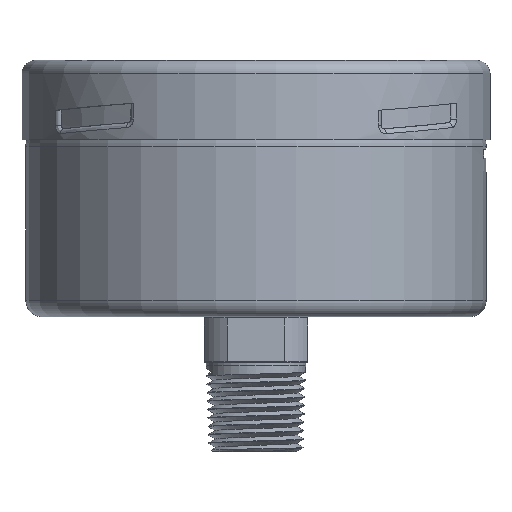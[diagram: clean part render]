
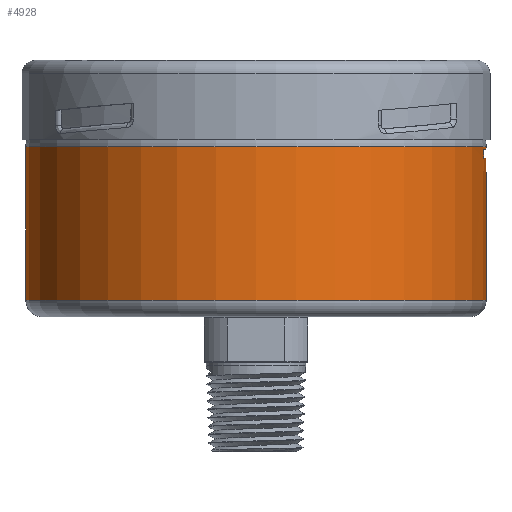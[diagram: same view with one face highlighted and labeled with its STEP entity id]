
A CAD part, left-side view. The second image highlights one B-rep face of the part: STEP entity #4928.
In plain terms, the highlighted cylindrical face has radius 49.4 mm (diameter 98.8 mm), a full revolution.
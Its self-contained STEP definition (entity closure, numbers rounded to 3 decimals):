
#75=FACE_BOUND('',#1843,.T.);
#76=FACE_BOUND('',#1844,.T.);
#158=LINE('',#7720,#653);
#159=LINE('',#7725,#654);
#160=LINE('',#7728,#655);
#653=VECTOR('',#5712,49.4);
#654=VECTOR('',#5715,1000.);
#655=VECTOR('',#5718,1000.);
#1147=CIRCLE('',#5294,49.4);
#1152=CIRCLE('',#5300,49.4);
#1153=CIRCLE('',#5302,49.4);
#1154=CIRCLE('',#5303,49.4);
#1211=CYLINDRICAL_SURFACE('',#5301,49.4);
#1552=FACE_OUTER_BOUND('',#1842,.T.);
#1842=EDGE_LOOP('',(#3431,#3432,#3433,#3434));
#1843=EDGE_LOOP('',(#3435,#3436));
#1844=EDGE_LOOP('',(#3437,#3438,#3439,#3440));
#2157=B_SPLINE_CURVE_WITH_KNOTS('',3,(#6845,#6846,#6847,#6848,#6849,#6850,
#6851,#6852,#6853,#6854,#6855,#6856,#6857,#6858,#6859,#6860,#6861,#6862,
#6863),.UNSPECIFIED.,.F.,.F.,(4,2,2,2,3,2,2,2,4),(0.057,0.062,
0.067,0.072,0.077,0.081,
0.086,0.091,0.096),.UNSPECIFIED.);
#2158=B_SPLINE_CURVE_WITH_KNOTS('',3,(#6864,#6865,#6866,#6867,#6868,#6869,
#6870,#6871,#6872,#6873,#6874,#6875,#6876,#6877,#6878,#6879,#6880,#6881),
 .UNSPECIFIED.,.F.,.F.,(4,2,2,2,2,2,2,2,4),(0.019,0.024,
0.029,0.033,0.038,0.043,
0.048,0.053,0.057),.UNSPECIFIED.);
#2249=VERTEX_POINT('',#6843);
#2250=VERTEX_POINT('',#6844);
#2288=VERTEX_POINT('',#7708);
#2291=VERTEX_POINT('',#7716);
#2292=VERTEX_POINT('',#7721);
#2293=VERTEX_POINT('',#7722);
#2294=VERTEX_POINT('',#7724);
#2295=VERTEX_POINT('',#7726);
#2688=EDGE_CURVE('',#2249,#2250,#2157,.T.);
#2689=EDGE_CURVE('',#2250,#2249,#2158,.T.);
#2734=EDGE_CURVE('',#2288,#2288,#1147,.T.);
#2739=EDGE_CURVE('',#2291,#2291,#1152,.T.);
#2740=EDGE_CURVE('',#2291,#2288,#158,.T.);
#2741=EDGE_CURVE('',#2292,#2293,#1153,.T.);
#2742=EDGE_CURVE('',#2294,#2292,#159,.T.);
#2743=EDGE_CURVE('',#2295,#2294,#1154,.T.);
#2744=EDGE_CURVE('',#2295,#2293,#160,.T.);
#3431=ORIENTED_EDGE('',*,*,#2739,.F.);
#3432=ORIENTED_EDGE('',*,*,#2740,.T.);
#3433=ORIENTED_EDGE('',*,*,#2734,.T.);
#3434=ORIENTED_EDGE('',*,*,#2740,.F.);
#3435=ORIENTED_EDGE('',*,*,#2689,.T.);
#3436=ORIENTED_EDGE('',*,*,#2688,.T.);
#3437=ORIENTED_EDGE('',*,*,#2741,.F.);
#3438=ORIENTED_EDGE('',*,*,#2742,.F.);
#3439=ORIENTED_EDGE('',*,*,#2743,.F.);
#3440=ORIENTED_EDGE('',*,*,#2744,.T.);
#4928=ADVANCED_FACE('',(#1552,#75,#76),#1211,.T.);
#5294=AXIS2_PLACEMENT_3D('',#7709,#5696,#5697);
#5300=AXIS2_PLACEMENT_3D('',#7718,#5708,#5709);
#5301=AXIS2_PLACEMENT_3D('',#7719,#5710,#5711);
#5302=AXIS2_PLACEMENT_3D('',#7723,#5713,#5714);
#5303=AXIS2_PLACEMENT_3D('',#7727,#5716,#5717);
#5696=DIRECTION('center_axis',(0.,0.,1.));
#5697=DIRECTION('ref_axis',(0.,-1.,0.));
#5708=DIRECTION('center_axis',(0.,0.,1.));
#5709=DIRECTION('ref_axis',(0.,-1.,0.));
#5710=DIRECTION('center_axis',(0.,0.,1.));
#5711=DIRECTION('ref_axis',(0.,-1.,0.));
#5712=DIRECTION('',(0.,0.,-1.));
#5713=DIRECTION('center_axis',(0.,0.,1.));
#5714=DIRECTION('ref_axis',(1.,0.,0.));
#5715=DIRECTION('',(0.,0.,-1.));
#5716=DIRECTION('center_axis',(0.,0.,-1.));
#5717=DIRECTION('ref_axis',(-1.,0.,0.));
#5718=DIRECTION('',(0.,0.,-1.));
#6843=CARTESIAN_POINT('',(0.,-49.4,19.873));
#6844=CARTESIAN_POINT('',(0.,-49.4,20.127));
#6845=CARTESIAN_POINT('Ctrl Pts',(0.,-49.4,19.873));
#6846=CARTESIAN_POINT('Ctrl Pts',(-0.016,-49.4,19.873));
#6847=CARTESIAN_POINT('Ctrl Pts',(-0.033,-49.4,
19.876));
#6848=CARTESIAN_POINT('Ctrl Pts',(-0.064,-49.4,
19.889));
#6849=CARTESIAN_POINT('Ctrl Pts',(-0.079,-49.4,
19.899));
#6850=CARTESIAN_POINT('Ctrl Pts',(-0.101,-49.4,
19.921));
#6851=CARTESIAN_POINT('Ctrl Pts',(-0.111,-49.4,
19.936));
#6852=CARTESIAN_POINT('Ctrl Pts',(-0.124,-49.4,
19.967));
#6853=CARTESIAN_POINT('Ctrl Pts',(-0.127,-49.4,19.984));
#6854=CARTESIAN_POINT('Ctrl Pts',(-0.127,-49.4,20.));
#6855=CARTESIAN_POINT('Ctrl Pts',(-0.127,-49.4,20.016));
#6856=CARTESIAN_POINT('Ctrl Pts',(-0.124,-49.4,
20.033));
#6857=CARTESIAN_POINT('Ctrl Pts',(-0.111,-49.4,
20.064));
#6858=CARTESIAN_POINT('Ctrl Pts',(-0.101,-49.4,
20.079));
#6859=CARTESIAN_POINT('Ctrl Pts',(-0.079,-49.4,
20.101));
#6860=CARTESIAN_POINT('Ctrl Pts',(-0.064,-49.4,
20.111));
#6861=CARTESIAN_POINT('Ctrl Pts',(-0.033,-49.4,
20.124));
#6862=CARTESIAN_POINT('Ctrl Pts',(-0.016,-49.4,20.127));
#6863=CARTESIAN_POINT('Ctrl Pts',(0.,-49.4,20.127));
#6864=CARTESIAN_POINT('Ctrl Pts',(0.,-49.4,20.127));
#6865=CARTESIAN_POINT('Ctrl Pts',(0.016,-49.4,20.127));
#6866=CARTESIAN_POINT('Ctrl Pts',(0.033,-49.4,
20.124));
#6867=CARTESIAN_POINT('Ctrl Pts',(0.064,-49.4,
20.111));
#6868=CARTESIAN_POINT('Ctrl Pts',(0.079,-49.4,
20.101));
#6869=CARTESIAN_POINT('Ctrl Pts',(0.101,-49.4,20.079));
#6870=CARTESIAN_POINT('Ctrl Pts',(0.111,-49.4,20.064));
#6871=CARTESIAN_POINT('Ctrl Pts',(0.124,-49.4,20.033));
#6872=CARTESIAN_POINT('Ctrl Pts',(0.127,-49.4,20.016));
#6873=CARTESIAN_POINT('Ctrl Pts',(0.127,-49.4,19.984));
#6874=CARTESIAN_POINT('Ctrl Pts',(0.124,-49.4,19.967));
#6875=CARTESIAN_POINT('Ctrl Pts',(0.111,-49.4,19.936));
#6876=CARTESIAN_POINT('Ctrl Pts',(0.101,-49.4,19.921));
#6877=CARTESIAN_POINT('Ctrl Pts',(0.079,-49.4,
19.899));
#6878=CARTESIAN_POINT('Ctrl Pts',(0.064,-49.4,
19.889));
#6879=CARTESIAN_POINT('Ctrl Pts',(0.033,-49.4,19.876));
#6880=CARTESIAN_POINT('Ctrl Pts',(0.016,-49.4,19.873));
#6881=CARTESIAN_POINT('Ctrl Pts',(0.,-49.4,19.873));
#7708=CARTESIAN_POINT('',(0.,49.4,3.5));
#7709=CARTESIAN_POINT('Origin',(0.,0.,3.5));
#7716=CARTESIAN_POINT('',(0.,49.4,36.5));
#7718=CARTESIAN_POINT('Origin',(0.,0.,36.5));
#7719=CARTESIAN_POINT('Origin',(0.,0.,0.));
#7720=CARTESIAN_POINT('',(0.,49.4,0.));
#7721=CARTESIAN_POINT('',(-7.488,-48.829,34.));
#7722=CARTESIAN_POINT('',(7.488,-48.829,34.));
#7723=CARTESIAN_POINT('Origin',(0.,0.,34.));
#7724=CARTESIAN_POINT('',(-7.488,-48.829,35.9));
#7725=CARTESIAN_POINT('',(-7.488,-48.829,50.952));
#7726=CARTESIAN_POINT('',(7.488,-48.829,35.9));
#7727=CARTESIAN_POINT('Origin',(0.,0.,35.9));
#7728=CARTESIAN_POINT('',(7.488,-48.829,50.952));
